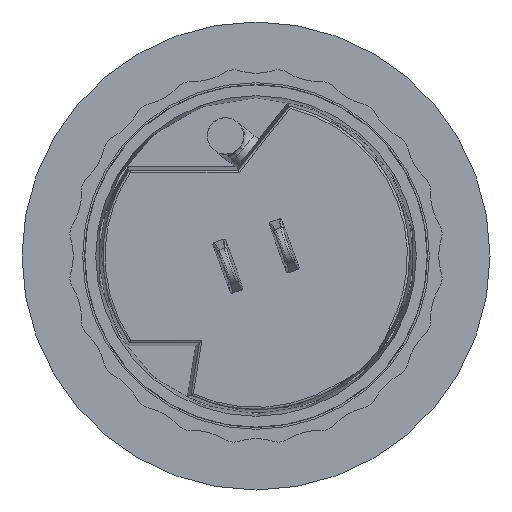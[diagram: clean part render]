
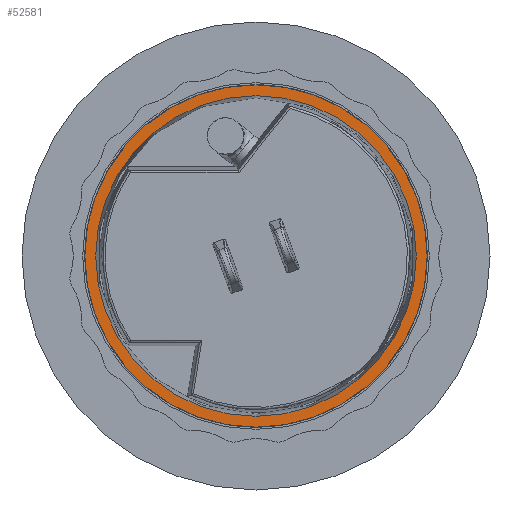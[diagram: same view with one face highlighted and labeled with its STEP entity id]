
A CAD part, front view. The second image highlights one B-rep face of the part: STEP entity #52581.
In plain terms, the highlighted planar face has unit normal (0, -1, 0).
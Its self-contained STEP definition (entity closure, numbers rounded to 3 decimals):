
#2700 = VERTEX_POINT ( 'NONE', #58344 ) ;
#3713 = DIRECTION ( 'NONE',  ( 0., 1., 0. ) ) ;
#5483 = AXIS2_PLACEMENT_3D ( 'NONE', #22931, #10621, #80954 ) ;
#7301 = AXIS2_PLACEMENT_3D ( 'NONE', #78299, #3713, #22584 ) ;
#8617 = EDGE_CURVE ( 'NONE', #72846, #2700, #21697, .T. ) ;
#9857 = FACE_BOUND ( 'NONE', #40367, .T. ) ;
#10621 = DIRECTION ( 'NONE',  ( 0., 1., 0. ) ) ;
#15428 = EDGE_LOOP ( 'NONE', ( #80996, #79102 ) ) ;
#16010 = PLANE ( 'NONE',  #7301 ) ;
#17518 = DIRECTION ( 'NONE',  ( 0., 0., -1. ) ) ;
#19260 = EDGE_CURVE ( 'NONE', #2700, #72846, #43074, .T. ) ;
#21697 = CIRCLE ( 'NONE', #77954, 39.503 ) ;
#22584 = DIRECTION ( 'NONE',  ( 0., 0., 1. ) ) ;
#22931 = CARTESIAN_POINT ( 'NONE',  ( 0., -61.33, 6.64 ) ) ;
#24073 = DIRECTION ( 'NONE',  ( 0., 1., 0. ) ) ;
#24257 = DIRECTION ( 'NONE',  ( 0., 0., -1. ) ) ;
#25473 = CARTESIAN_POINT ( 'NONE',  ( 0., -61.33, 6.64 ) ) ;
#27086 = VERTEX_POINT ( 'NONE', #75785 ) ;
#30197 = CARTESIAN_POINT ( 'NONE',  ( 0., -61.33, 6.64 ) ) ;
#31344 = AXIS2_PLACEMENT_3D ( 'NONE', #25473, #44289, #24257 ) ;
#36360 = EDGE_CURVE ( 'NONE', #63153, #27086, #70330, .T. ) ;
#40367 = EDGE_LOOP ( 'NONE', ( #41045, #49916 ) ) ;
#41045 = ORIENTED_EDGE ( 'NONE', *, *, #80056, .T. ) ;
#41534 = AXIS2_PLACEMENT_3D ( 'NONE', #30197, #24073, #17518 ) ;
#43074 = CIRCLE ( 'NONE', #31344, 39.503 ) ;
#43113 = DIRECTION ( 'NONE',  ( 0., 1., 0. ) ) ;
#44289 = DIRECTION ( 'NONE',  ( 0., 1., 0. ) ) ;
#44342 = DIRECTION ( 'NONE',  ( 0., 0., -1. ) ) ;
#46058 = CIRCLE ( 'NONE', #5483, 37. ) ;
#49916 = ORIENTED_EDGE ( 'NONE', *, *, #36360, .T. ) ;
#52581 = ADVANCED_FACE ( 'NONE', ( #53260, #9857 ), #16010, .F. ) ;
#53260 = FACE_OUTER_BOUND ( 'NONE', #15428, .T. ) ;
#58344 = CARTESIAN_POINT ( 'NONE',  ( 0., -61.33, -32.863 ) ) ;
#63153 = VERTEX_POINT ( 'NONE', #65223 ) ;
#65223 = CARTESIAN_POINT ( 'NONE',  ( 0., -61.33, 43.64 ) ) ;
#70330 = CIRCLE ( 'NONE', #41534, 37. ) ;
#72846 = VERTEX_POINT ( 'NONE', #77605 ) ;
#75510 = CARTESIAN_POINT ( 'NONE',  ( 0., -61.33, 6.64 ) ) ;
#75785 = CARTESIAN_POINT ( 'NONE',  ( 0., -61.33, -30.36 ) ) ;
#77605 = CARTESIAN_POINT ( 'NONE',  ( 0., -61.33, 46.143 ) ) ;
#77954 = AXIS2_PLACEMENT_3D ( 'NONE', #75510, #43113, #44342 ) ;
#78299 = CARTESIAN_POINT ( 'NONE',  ( 0., -61.33, -32.863 ) ) ;
#79102 = ORIENTED_EDGE ( 'NONE', *, *, #8617, .F. ) ;
#80056 = EDGE_CURVE ( 'NONE', #27086, #63153, #46058, .T. ) ;
#80954 = DIRECTION ( 'NONE',  ( 0., 0., -1. ) ) ;
#80996 = ORIENTED_EDGE ( 'NONE', *, *, #19260, .F. ) ;
